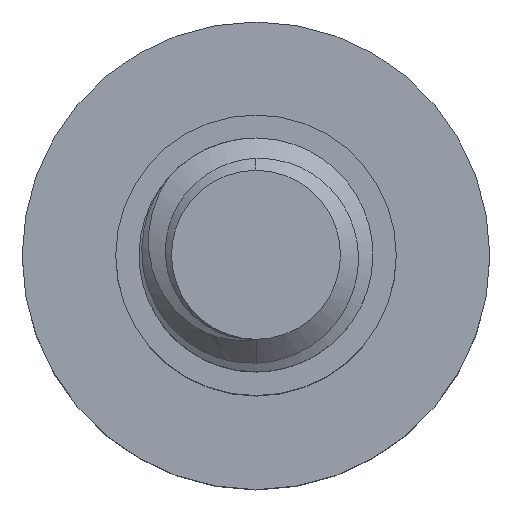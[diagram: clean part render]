
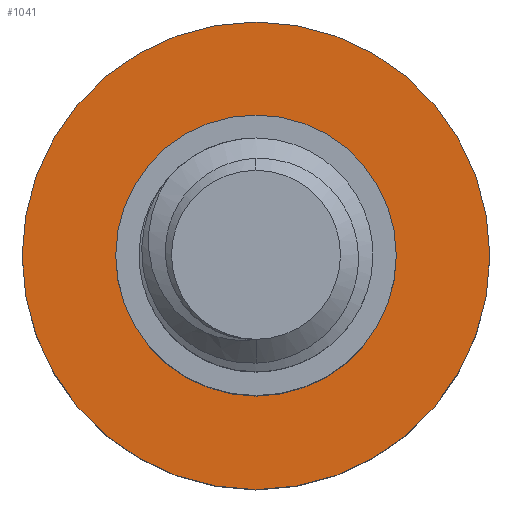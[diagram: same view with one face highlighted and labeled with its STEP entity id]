
A CAD part, top view. The second image highlights one B-rep face of the part: STEP entity #1041.
In plain terms, the highlighted planar face has unit normal (0, 0, 1).
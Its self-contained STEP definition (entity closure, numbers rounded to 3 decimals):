
#63 = EDGE_CURVE ( 'NONE', #1167, #1908, #2000, .T. ) ;
#88 = PLANE ( 'NONE',  #460 ) ;
#118 = AXIS2_PLACEMENT_3D ( 'NONE', #793, #1532, #1872 ) ;
#153 = CIRCLE ( 'NONE', #118, 5. ) ;
#155 = DIRECTION ( 'NONE',  ( -1., 0., 0. ) ) ;
#176 = CARTESIAN_POINT ( 'NONE',  ( 0., 0., -6. ) ) ;
#224 = CIRCLE ( 'NONE', #1571, 5. ) ;
#314 = DIRECTION ( 'NONE',  ( 0., 0., -1. ) ) ;
#375 = EDGE_LOOP ( 'NONE', ( #1969, #1826 ) ) ;
#411 = EDGE_CURVE ( 'NONE', #1561, #2008, #224, .T. ) ;
#460 = AXIS2_PLACEMENT_3D ( 'NONE', #2150, #485, #1378 ) ;
#468 = ORIENTED_EDGE ( 'NONE', *, *, #1627, .T. ) ;
#479 = CARTESIAN_POINT ( 'NONE',  ( 0., 0., -6. ) ) ;
#485 = DIRECTION ( 'NONE',  ( 0., 0., -1. ) ) ;
#633 = DIRECTION ( 'NONE',  ( 0., 0., -1. ) ) ;
#706 = ORIENTED_EDGE ( 'NONE', *, *, #63, .T. ) ;
#766 = AXIS2_PLACEMENT_3D ( 'NONE', #1177, #314, #155 ) ;
#793 = CARTESIAN_POINT ( 'NONE',  ( 0., 0., -6. ) ) ;
#816 = FACE_OUTER_BOUND ( 'NONE', #375, .T. ) ;
#1041 = ADVANCED_FACE ( 'NONE', ( #2332, #816 ), #88, .F. ) ;
#1167 = VERTEX_POINT ( 'NONE', #1862 ) ;
#1177 = CARTESIAN_POINT ( 'NONE',  ( 0., 0., -6. ) ) ;
#1209 = DIRECTION ( 'NONE',  ( -1., 0., 0. ) ) ;
#1214 = CARTESIAN_POINT ( 'NONE',  ( 3., 0., -6. ) ) ;
#1378 = DIRECTION ( 'NONE',  ( -1., 0., 0. ) ) ;
#1458 = CIRCLE ( 'NONE', #766, 3. ) ;
#1466 = CARTESIAN_POINT ( 'NONE',  ( 5., 0., -6. ) ) ;
#1480 = CARTESIAN_POINT ( 'NONE',  ( -5., 0., -6. ) ) ;
#1532 = DIRECTION ( 'NONE',  ( 0., 0., -1. ) ) ;
#1548 = EDGE_LOOP ( 'NONE', ( #706, #468 ) ) ;
#1561 = VERTEX_POINT ( 'NONE', #1466 ) ;
#1571 = AXIS2_PLACEMENT_3D ( 'NONE', #479, #633, #1209 ) ;
#1627 = EDGE_CURVE ( 'NONE', #1908, #1167, #1458, .T. ) ;
#1778 = EDGE_CURVE ( 'NONE', #2008, #1561, #153, .T. ) ;
#1826 = ORIENTED_EDGE ( 'NONE', *, *, #1778, .F. ) ;
#1846 = AXIS2_PLACEMENT_3D ( 'NONE', #176, #2011, #2191 ) ;
#1862 = CARTESIAN_POINT ( 'NONE',  ( -3., 0., -6. ) ) ;
#1872 = DIRECTION ( 'NONE',  ( -1., 0., 0. ) ) ;
#1908 = VERTEX_POINT ( 'NONE', #1214 ) ;
#1969 = ORIENTED_EDGE ( 'NONE', *, *, #411, .F. ) ;
#2000 = CIRCLE ( 'NONE', #1846, 3. ) ;
#2008 = VERTEX_POINT ( 'NONE', #1480 ) ;
#2011 = DIRECTION ( 'NONE',  ( 0., 0., -1. ) ) ;
#2150 = CARTESIAN_POINT ( 'NONE',  ( 0., 0., -6. ) ) ;
#2191 = DIRECTION ( 'NONE',  ( -1., 0., 0. ) ) ;
#2332 = FACE_BOUND ( 'NONE', #1548, .T. ) ;
